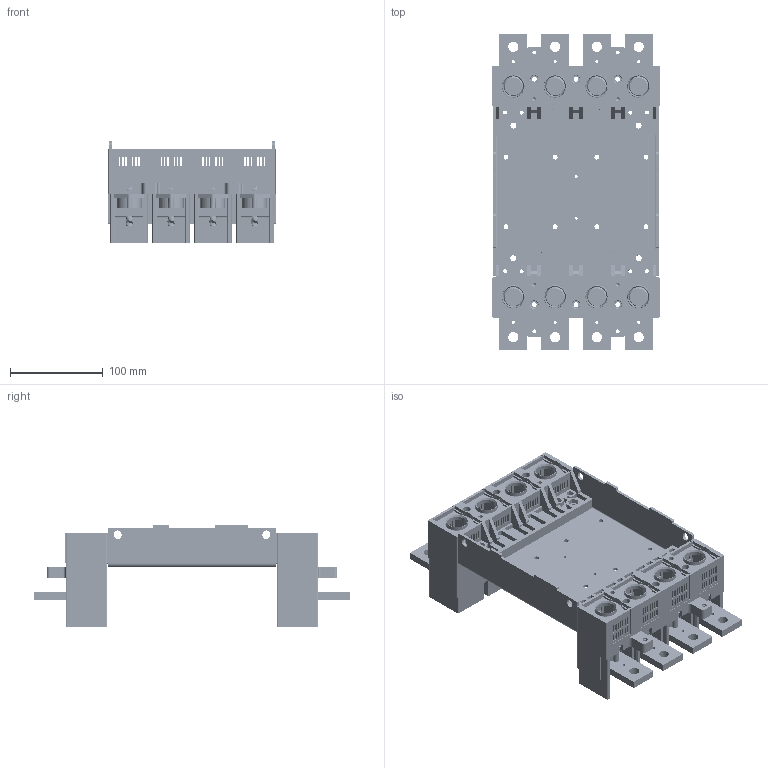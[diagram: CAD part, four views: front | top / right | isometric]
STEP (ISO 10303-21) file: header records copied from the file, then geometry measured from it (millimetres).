
FILE_DESCRIPTION (( 'STEP AP214' ), '1' );
FILE_NAME ('Âòû÷íîå îñíîâàíèå TEM7E-630-4p.stp.STEP', '2025-11-25T09:19:50', ( '' ), ( '' ), 'SwSTEP 2.0', 'SolidWorks 2024', '' );
FILE_SCHEMA (( 'AUTOMOTIVE_DESIGN' ));
Length unit declared in the file: millimetre
Products named in the file (10): NONE.stp; MZ2-630-TEM7_1_ASM.stp; 400-630 DOB 4P; M5_2_2_-38954000.stp; 3WL8_024_681.stp; WL8_325_037.stp; 2WL5_024_162_ASM.stp; WL8_551_029.stp; 1700.stp; Втычное основание TEM7E-630-4p.stp
Assembly tree (24 placements, depth 4):
  Втычное основание TEM7E-630-4p.stp
    MZ2-630-TEM7_1_ASM.stp
      2WL5_024_162_ASM.stp  x2
        NONE.stp
        1700.stp
        M5_2_2_-38954000.stp
      WL8_551_029.stp  x8
      WL8_325_037.stp  x6
      3WL8_024_681.stp
    WL8_325_037.stp  x2
    400-630 DOB 4P
Bounding box: 180 x 341 x 111 mm (x, y, z)
Volume: 1077960.5 mm3; surface area: 526382.8 mm2
Topology: 31 solids, 33 shells, 4378 faces, 12516 edges, 8246 vertices
Faces by surface type: plane 2276, cylinder 1942, torus 72, cone 72, bspline 16
Entity records: 104292 total; most frequent: CARTESIAN_POINT 23528, ORIENTED_EDGE 16990, DIRECTION 16607, EDGE_CURVE 8495, LINE 6005, VECTOR 6005, VERTEX_POINT 5613, AXIS2_PLACEMENT_3D 5301
